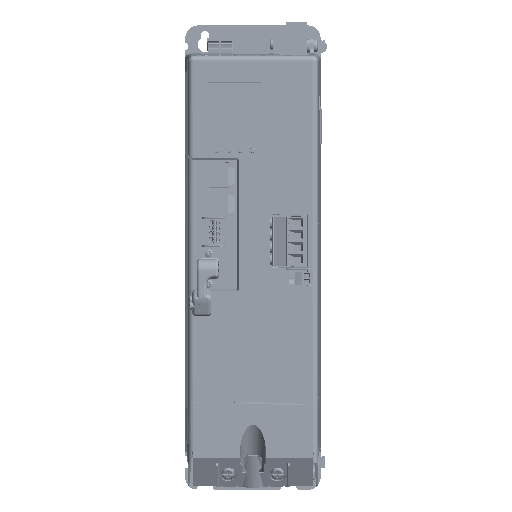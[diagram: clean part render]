
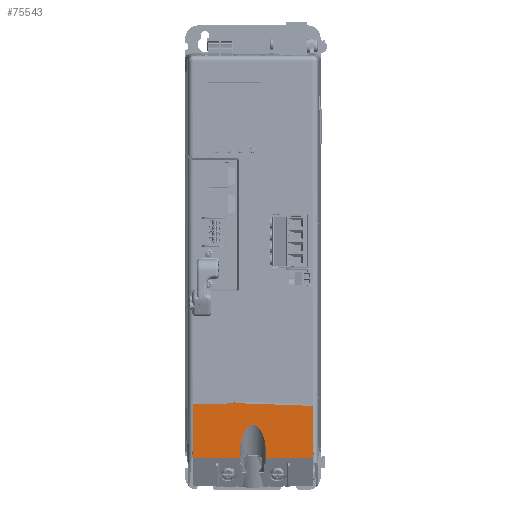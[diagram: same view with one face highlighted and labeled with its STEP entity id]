
A CAD part, top view. The second image highlights one B-rep face of the part: STEP entity #75543.
In plain terms, the highlighted planar face has unit normal (0, 0, 1).
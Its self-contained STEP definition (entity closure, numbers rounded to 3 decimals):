
#18390=DIRECTION('',(0.,1.,0.));
#18391=VECTOR('',#18390,32.999);
#18392=CARTESIAN_POINT('',(37.75,-130.584,199.987));
#18393=LINE('',#18392,#18391);
#19695=DIRECTION('',(0.,-1.,0.));
#19696=VECTOR('',#19695,34.096);
#19697=CARTESIAN_POINT('',(-37.75,-96.488,199.987));
#19698=LINE('',#19697,#19696);
#19862=DIRECTION('',(1.,0.,0.));
#19863=VECTOR('',#19862,29.5);
#19864=CARTESIAN_POINT('',(-37.75,-130.584,199.987));
#19865=LINE('',#19864,#19863);
#19910=DIRECTION('',(1.,0.,0.));
#19911=VECTOR('',#19910,29.5);
#19912=CARTESIAN_POINT('',(8.25,-130.584,199.987));
#19913=LINE('',#19912,#19911);
#20719=CARTESIAN_POINT('',(-8.25,-127.981,199.987));
#20720=CARTESIAN_POINT('',(-8.25,-125.802,199.987));
#20721=CARTESIAN_POINT('',(-7.898,-121.095,199.987));
#20722=CARTESIAN_POINT('',(-6.006,-114.516,199.987));
#20723=CARTESIAN_POINT('',(-3.566,-110.989,199.987));
#20724=CARTESIAN_POINT('',(-1.49,-109.686,199.987));
#20725=CARTESIAN_POINT('',(0.,-109.394,199.987));
#20726=CARTESIAN_POINT('',(1.49,-109.686,199.987));
#20727=CARTESIAN_POINT('',(3.566,-110.989,199.987));
#20728=CARTESIAN_POINT('',(6.006,-114.516,199.987));
#20729=CARTESIAN_POINT('',(7.898,-121.095,199.987));
#20730=CARTESIAN_POINT('',(8.25,-125.802,199.987));
#20731=CARTESIAN_POINT('',(8.25,-127.981,199.987));
#20733=DIRECTION('',(0.999,-0.035,0.));
#20734=VECTOR('',#20733,46.121);
#20735=CARTESIAN_POINT('',(-8.343,-95.975,199.987));
#20736=LINE('',#20735,#20734);
#20757=DIRECTION('',(0.,1.,0.));
#20758=VECTOR('',#20757,2.603);
#20759=CARTESIAN_POINT('',(-8.25,-130.584,199.987));
#20760=LINE('',#20759,#20758);
#20824=DIRECTION('',(0.,-1.,0.));
#20825=VECTOR('',#20824,2.603);
#20826=CARTESIAN_POINT('',(8.25,-127.981,199.987));
#20827=LINE('',#20826,#20825);
#20857=DIRECTION('',(-1.,-0.017,0.));
#20858=VECTOR('',#20857,29.412);
#20859=CARTESIAN_POINT('',(-8.343,-95.975,199.987));
#20860=LINE('',#20859,#20858);
#38838=CARTESIAN_POINT('',(-8.343,-95.975,199.987));
#38839=CARTESIAN_POINT('',(-37.75,-96.488,199.987));
#38840=VERTEX_POINT('',#38838);
#38841=VERTEX_POINT('',#38839);
#40468=CARTESIAN_POINT('',(37.75,-130.584,199.987));
#40469=CARTESIAN_POINT('',(37.75,-97.585,199.987));
#40470=VERTEX_POINT('',#40468);
#40471=VERTEX_POINT('',#40469);
#40472=CARTESIAN_POINT('',(-37.75,-130.584,199.987));
#40473=VERTEX_POINT('',#40472);
#40474=CARTESIAN_POINT('',(-8.25,-130.584,199.987));
#40475=VERTEX_POINT('',#40474);
#40476=CARTESIAN_POINT('',(8.25,-130.584,199.987));
#40477=VERTEX_POINT('',#40476);
#42179=VERTEX_POINT('',#20719);
#42180=VERTEX_POINT('',#20731);
#75524=CARTESIAN_POINT('',(37.75,-126.,199.987));
#75525=DIRECTION('',(0.,0.,1.));
#75526=DIRECTION('',(-1.,0.,0.));
#75527=AXIS2_PLACEMENT_3D('',#75524,#75525,#75526);
#75528=PLANE('',#75527);
#75529=ORIENTED_EDGE('',*,*,#75497,.F.);
#75531=ORIENTED_EDGE('',*,*,#75530,.F.);
#75532=ORIENTED_EDGE('',*,*,#73704,.F.);
#75533=ORIENTED_EDGE('',*,*,#73495,.F.);
#75535=ORIENTED_EDGE('',*,*,#75534,.F.);
#75536=ORIENTED_EDGE('',*,*,#54515,.T.);
#75537=ORIENTED_EDGE('',*,*,#70669,.F.);
#75538=ORIENTED_EDGE('',*,*,#73742,.F.);
#75540=ORIENTED_EDGE('',*,*,#75539,.F.);
#75541=EDGE_LOOP('',(#75529,#75531,#75532,#75533,#75535,#75536,#75537,#75538,
#75540));
#75542=FACE_OUTER_BOUND('',#75541,.F.);
#75543=ADVANCED_FACE('',(#75542),#75528,.T.);
#20732=B_SPLINE_CURVE_WITH_KNOTS('',3,(#20719,#20720,#20721,#20722,#20723,
#20724,#20725,#20726,#20727,#20728,#20729,#20730,#20731),.UNSPECIFIED.,.F.,.F.,(
4,1,1,1,1,1,1,1,1,1,4),(0.,0.125,0.25,0.375,0.438,0.5,0.563,
0.625,0.75,0.875,1.),.UNSPECIFIED.);
#54515=EDGE_CURVE('',#38840,#40471,#20736,.T.);
#70669=EDGE_CURVE('',#40470,#40471,#18393,.T.);
#73495=EDGE_CURVE('',#38841,#40473,#19698,.T.);
#73704=EDGE_CURVE('',#40473,#40475,#19865,.T.);
#73742=EDGE_CURVE('',#40477,#40470,#19913,.T.);
#75497=EDGE_CURVE('',#42179,#42180,#20732,.T.);
#75530=EDGE_CURVE('',#40475,#42179,#20760,.T.);
#75534=EDGE_CURVE('',#38840,#38841,#20860,.T.);
#75539=EDGE_CURVE('',#42180,#40477,#20827,.T.);
